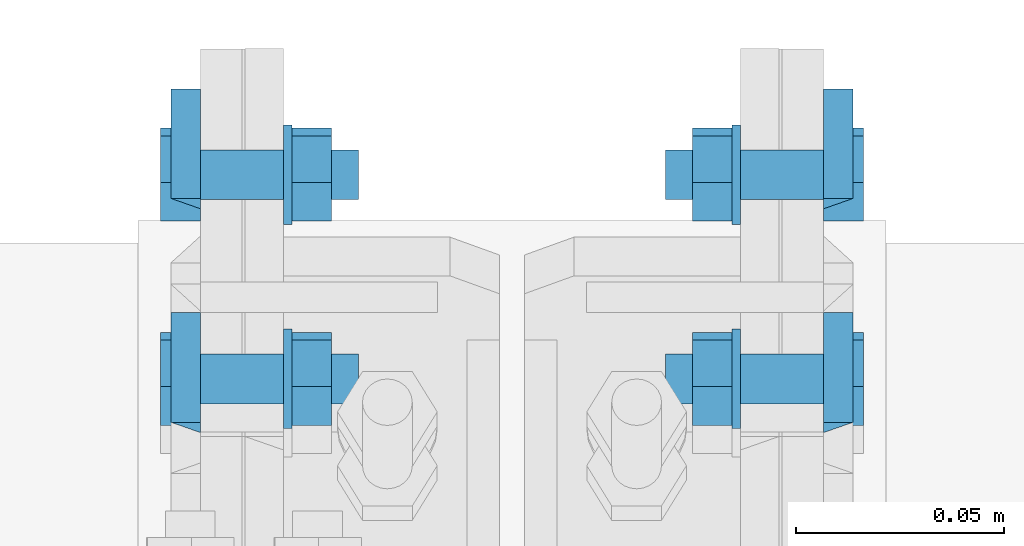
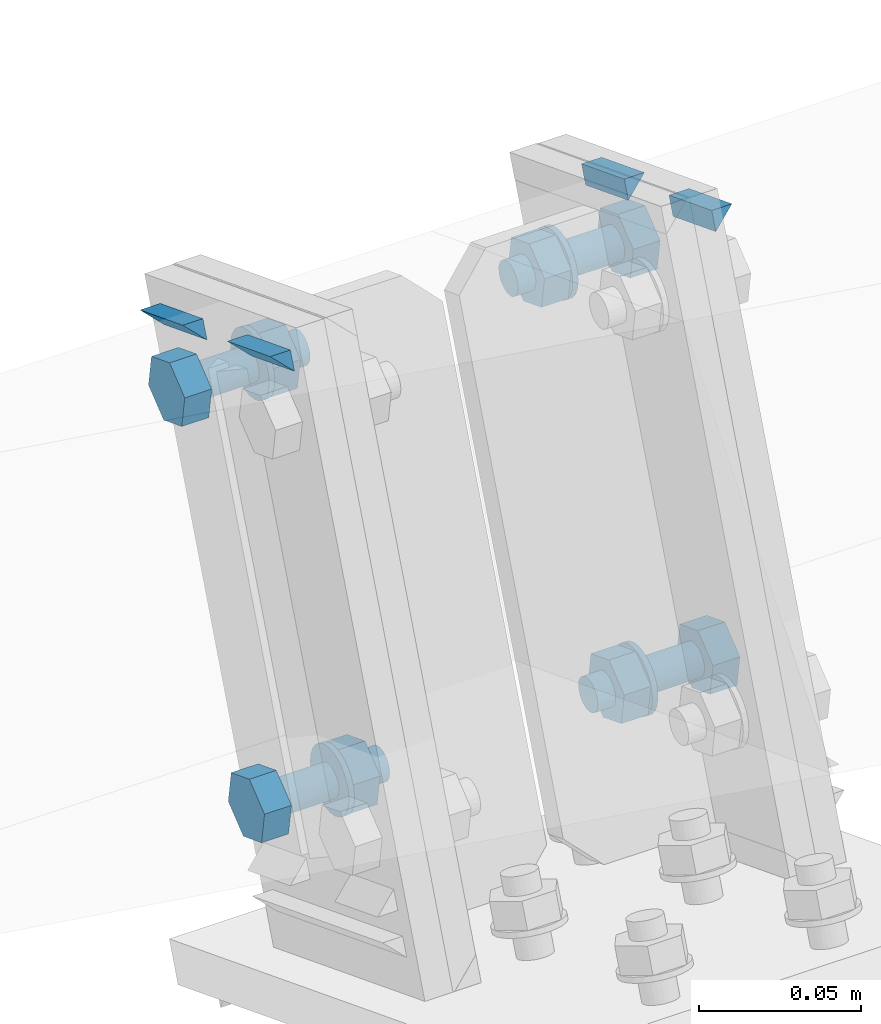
# One storey, part 47 of 72: 16 mechanical fasteners, 8 fasteners.
"""IFC4 building model written with IfcOpenShell, lengths in metres."""

import ifcopenshell
import ifcopenshell.guid

model = None  # the IFC model being written
_history = None  # IfcOwnerHistory: only IFC2X3 demands one
_inside = {}  # id of a spatial element -> (the spatial element, [elements in it])
_under = {}  # id of a project, library or spatial element -> (it, [spatial elements below it])
_declared = {}  # id of a project -> (the project, [libraries it declares])
_typed = {}  # id of a type object -> (the type object, [elements of that type])
_made_of = {}  # id of a material, layer set ... -> (it, [elements and type objects made of it])


def new_model(schema):
    """Start an empty IFC model of exactly this schema.

    Asked for "IFC4X3", IfcOpenShell would pick the latest addendum, in which some entities
    have other attributes; the version numbers below select the first issue.
    IFC2X3 requires an IfcOwnerHistory on every rooted entity: one is made here for all.
    """
    global model, _history
    if schema == "IFC4X3":
        model = ifcopenshell.file(schema_version=(4, 3, 0, 0))
    else:
        model = ifcopenshell.file(schema=schema)
    _inside.clear()
    _under.clear()
    _declared.clear()
    _typed.clear()
    _made_of.clear()
    _history = None
    if model.schema == "IFC2X3":
        org = make("IfcOrganization", Name="unknown")
        user = make(
            "IfcPersonAndOrganization",
            ThePerson=make("IfcPerson", FamilyName="unknown"),
            TheOrganization=org,
        )
        app = make(
            "IfcApplication",
            ApplicationDeveloper=org,
            Version="unknown",
            ApplicationFullName="unknown",
            ApplicationIdentifier="unknown",
        )
        _history = make(
            "IfcOwnerHistory",
            OwningUser=user,
            OwningApplication=app,
            ChangeAction="ADDED",
            CreationDate=0,
        )
    return model


def make(cls, **values):
    """One entity of the class cls with the attributes given. An attribute that is None is left unset."""
    return model.create_entity(
        cls, **{name: value for name, value in values.items() if value is not None}
    )


def rooted(cls, **values):
    """An entity with a GlobalId (a new one), such as an element, a storey or a relation."""
    return make(cls, GlobalId=ifcopenshell.guid.new(), OwnerHistory=_history, **values)


def si_unit(unit_type, name, prefix=None):
    """IfcSIUnit, for example si_unit("LENGTHUNIT", "METRE", prefix="MILLI")."""
    return make("IfcSIUnit", UnitType=unit_type, Prefix=prefix, Name=name)


def assignment(units):
    """IfcUnitAssignment: the units of a project."""
    return None if units is None else make("IfcUnitAssignment", Units=units)


def point(xyz):
    """IfcCartesianPoint."""
    return None if xyz is None else make("IfcCartesianPoint", Coordinates=xyz)


def direction(xyz):
    """IfcDirection."""
    return None if xyz is None else make("IfcDirection", DirectionRatios=xyz)


def frame(location, z_axis=None, x_axis=None):
    """IfcAxis2Placement3D, a coordinate frame: its origin and axes. An axis left out is left unset."""
    return make(
        "IfcAxis2Placement3D",
        Location=point(location),
        Axis=direction(z_axis),
        RefDirection=direction(x_axis),
    )


def origin_with_axes():
    """The frame at (0, 0, 0) with the z axis (0, 0, 1) and the x axis (1, 0, 0) written out."""
    return frame((0.0, 0.0, 0.0), z_axis=(0.0, 0.0, 1.0), x_axis=(1.0, 0.0, 0.0))


def place(relative_to, where):
    """IfcLocalPlacement: puts the frame where relative to a parent placement (None: the world)."""
    return make(
        "IfcLocalPlacement", PlacementRelTo=relative_to, RelativePlacement=where
    )


def context(
    kind, dimensions, precision=None, world=None, true_north=None, identifier=None
):
    """IfcGeometricRepresentationContext, for example the 3D "Model" context."""
    return make(
        "IfcGeometricRepresentationContext",
        ContextIdentifier=identifier,
        ContextType=kind,
        CoordinateSpaceDimension=dimensions,
        Precision=precision,
        WorldCoordinateSystem=world,
        TrueNorth=true_north,
    )


def project(units=None, contexts=None):
    """IfcProject with its units and contexts."""
    return rooted(
        "IfcProject",
        Name="project",
        RepresentationContexts=contexts,
        UnitsInContext=assignment(units),
    )


def spatial(cls, under=None, at=None, **own):
    """A site, building, storey or space (cls), placed at a placement, below another one or the project."""
    s = rooted(cls, ObjectPlacement=at, **own)
    if under is not None:
        _under.setdefault(under.id(), (under, []))[1].append(s)
    return s


def polyline(points):
    """IfcPolyline through the points."""
    return make("IfcPolyline", Points=[point(p) for p in points])


def outline(outer, holes=None, kind="AREA"):
    """IfcArbitraryClosedProfileDef: a profile drawn as a closed curve; with holes, ...WithVoids."""
    if holes is None:
        return make("IfcArbitraryClosedProfileDef", ProfileType=kind, OuterCurve=outer)
    return make(
        "IfcArbitraryProfileDefWithVoids",
        ProfileType=kind,
        OuterCurve=outer,
        InnerCurves=holes,
    )


def extrude(swept, where, along, depth):
    """IfcExtrudedAreaSolid: the profile swept, set in the frame where, extruded along a direction by depth."""
    return make(
        "IfcExtrudedAreaSolid",
        SweptArea=swept,
        Position=where,
        ExtrudedDirection=direction(along),
        Depth=depth,
    )


def shape(context_of_items, identifier, shape_type, items):
    """IfcShapeRepresentation: the items that make up one representation, for example the "Body"."""
    return make(
        "IfcShapeRepresentation",
        ContextOfItems=context_of_items,
        RepresentationIdentifier=identifier,
        RepresentationType=shape_type,
        Items=items,
    )


def made_of(thing, what):
    """Note that an element or type object is made of a material, layer set ...; save() writes the relation."""
    if what is not None:
        _made_of.setdefault(what.id(), (what, []))[1].append(thing)
    return thing


def type_object(cls, material=None, **own):
    """A type object (cls), such as IfcWallType, which elements share."""
    return made_of(rooted(cls, **own), material)


def element(
    cls,
    number,
    at=None,
    inside=None,
    cuts=None,
    type_object=None,
    material=None,
    context=None,
    identifier="Body",
    shape_type=None,
    held_by="IfcProductDefinitionShape",
    body=None,
    shapes=None,
    **own,
):
    """One element of the class cls, such as IfcWall. Its Tag is "e" and its number.

    at: its placement. inside: the storey or other place that contains it. cuts: it is an
    opening in that element (IfcRelVoidsElement). A single representation is given by context,
    identifier, shape_type and body (its items); several are given by shapes. held_by: the class
    of the entity that holds the representations. save() writes the other relations.
    """
    e = rooted(cls, Tag="e%d" % number, ObjectPlacement=at, **own)
    if body is not None:
        shapes = [shape(context, identifier, shape_type, body)]
    if shapes is not None:
        e.Representation = make(held_by, Representations=shapes)
    if inside is not None:
        _inside.setdefault(inside.id(), (inside, []))[1].append(e)
    if cuts is not None:
        rooted(
            "IfcRelVoidsElement", RelatingBuildingElement=cuts, RelatedOpeningElement=e
        )
    if type_object is not None:
        _typed.setdefault(type_object.id(), (type_object, []))[1].append(e)
    return made_of(e, material)


def aggregate(whole, parts):
    """IfcRelAggregates: a whole, such as a stair, and the parts it consists of."""
    return rooted("IfcRelAggregates", RelatingObject=whole, RelatedObjects=parts)


def save(model, path):
    """Write the relations noted so far, then the file.

    IfcRelAggregates (storeys below a building ...), IfcRelContainedInSpatialStructure (elements
    in a storey), IfcRelDefinesByType, IfcRelAssociatesMaterial and IfcRelDeclares: one each for
    every whole, place, type object, material and project.
    """
    for whole, parts in _under.values():
        aggregate(whole, parts)
    for where, things in _inside.values():
        rooted(
            "IfcRelContainedInSpatialStructure",
            RelatedElements=things,
            RelatingStructure=where,
        )
    for kind, things in _typed.values():
        rooted("IfcRelDefinesByType", RelatedObjects=things, RelatingType=kind)
    for what, things in _made_of.values():
        rooted("IfcRelAssociatesMaterial", RelatedObjects=things, RelatingMaterial=what)
    for by, libraries in _declared.values():
        rooted("IfcRelDeclares", RelatingContext=by, RelatedDefinitions=libraries)
    model.write(path)


model = new_model("IFC4")

# Units and contexts
model_context = context("Model", 3, precision=1e-05, world=origin_with_axes())
ifc_project = project(units=[si_unit("LENGTHUNIT", "METRE"), si_unit("AREAUNIT", "SQUARE_METRE"), si_unit("VOLUMEUNIT", "CUBIC_METRE"), si_unit("MASSUNIT", "GRAM", prefix="KILO"), si_unit("TIMEUNIT", "SECOND"), si_unit("PLANEANGLEUNIT", "RADIAN"), si_unit("SOLIDANGLEUNIT", "STERADIAN"), si_unit("THERMODYNAMICTEMPERATUREUNIT", "DEGREE_CELSIUS")], contexts=[model_context])

# Site, building, storey
placement_1 = place(None, origin_with_axes())
site = spatial("IfcSite", under=ifc_project, at=placement_1, Name="Italia", CompositionType="ELEMENT")
building = spatial("IfcBuilding", under=site, at=placement_1, Name="Uffici", CompositionType="ELEMENT")
storey = spatial("IfcBuildingStorey", under=building, at=placement_1, Name="Storey 0", CompositionType="ELEMENT", Elevation=0.0)

# Fasteners
fastener_type_1 = type_object("IfcFastenerType", Name="Collegamento 0207_0206", PredefinedType="WELD")
placement_2 = place(placement_1, origin_with_axes())
fastener_1_placement = place(placement_2, origin_with_axes())
element("IfcFastener", 1, at=fastener_1_placement, inside=storey, type_object=fastener_type_1, Name="Collegamento 0207_0206", context=model_context, shape_type="SweptSolid", body=[
    extrude(outline(polyline([(0.0, 0.0), (-0.00717354, 0.00695801), (0.0, 0.00695801), (0.0, 0.0)])), frame((3.13005, 4.93457, 5.31007), z_axis=(0.0, -0.932385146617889, 0.361466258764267), x_axis=(1.0, 0.0, 0.0)), (0.0, 0.0, 1.0), 0.0283003),
])
fastener_type_2 = type_object("IfcFastenerType", Name="Collegamento 0207_0206", PredefinedType="WELD")
fastener_2_placement = place(placement_2, origin_with_axes())
element("IfcFastener", 2, at=fastener_2_placement, inside=storey, type_object=fastener_type_2, Name="Collegamento 0207_0206", context=model_context, shape_type="SweptSolid", body=[
    extrude(outline(polyline([(0.0, 0.0), (-0.00717354, 0.00695801), (0.0, 0.00695801), (0.0, 0.0)])), frame((3.13005, 4.88068, 5.33097), z_axis=(0.0, -0.932388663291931, 0.361457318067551), x_axis=(1.0, 0.0, 0.0)), (0.0, 0.0, 1.0), 0.0282996),
])
fastener_type_3 = type_object("IfcFastenerType", Name="Collegamento 0207_0206", PredefinedType="WELD")
fastener_3_placement = place(placement_2, origin_with_axes())
element("IfcFastener", 3, at=fastener_3_placement, inside=storey, type_object=fastener_type_3, Name="Collegamento 0207_0206", context=model_context, shape_type="SweptSolid", body=[
    extrude(outline(polyline([(0.0, 0.0), (-0.00717354, 0.00695801), (0.0, 0.00695801), (0.0, 0.0)])), frame((3.13005, 4.93457, 5.31007), z_axis=(0.0, -0.932385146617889, 0.361466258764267), x_axis=(1.0, 0.0, 0.0)), (0.0, 0.0, 1.0), 0.0283003),
])
fastener_type_4 = type_object("IfcFastenerType", Name="Collegamento 0207_0206", PredefinedType="WELD")
fastener_4_placement = place(placement_2, origin_with_axes())
element("IfcFastener", 4, at=fastener_4_placement, inside=storey, type_object=fastener_type_4, Name="Collegamento 0207_0206", context=model_context, shape_type="SweptSolid", body=[
    extrude(outline(polyline([(0.0, 0.0), (-0.00717354, 0.00695801), (0.0, 0.00695801), (0.0, 0.0)])), frame((3.13005, 4.88068, 5.33097), z_axis=(0.0, -0.932388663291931, 0.361457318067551), x_axis=(1.0, 0.0, 0.0)), (0.0, 0.0, 1.0), 0.0282996),
])

# Mechanical fasteners
mechanical_fastener_type_1 = type_object("IfcMechanicalFastenerType", Name="Collegamento 0207_0206", PredefinedType="BOLT")
mechanical_fastener_1_placement = place(placement_2, origin_with_axes())
element("IfcMechanicalFastener", 5, at=mechanical_fastener_1_placement, inside=storey, type_object=mechanical_fastener_type_1, Name="Collegamento 0207_0206", NominalDiameter=0.0119998, context=model_context, shape_type="SweptSolid", body=[
    extrude(outline(polyline([(0.0, 0.0), (-0.0111885, -0.00433731), (-0.0205393, 0.00318336), (-0.0187016, 0.0150418), (-0.00751305, 0.0193791), (0.00183773, 0.0118585), (0.0, 0.0)])), frame((3.13, 4.8579, 5.16499), z_axis=(-1.0, 0.0, 0.0), x_axis=(0.0, -1.0, 0.0)), (0.0, 0.0, 1.0), 0.00959992),
])
mechanical_fastener_type_2 = type_object("IfcMechanicalFastenerType", Name="Collegamento 0207_0206", PredefinedType="BOLT")
mechanical_fastener_2_placement = place(placement_2, origin_with_axes())
element("IfcMechanicalFastener", 6, at=mechanical_fastener_2_placement, inside=storey, type_object=mechanical_fastener_type_2, Name="Collegamento 0207_0206", NominalDiameter=0.012, context=model_context, shape_type="SweptSolid", body=[
    extrude(outline(polyline([(0.0, 0.0), (-0.000204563, -0.00155306), (-0.000803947, -0.00299978), (-0.00175762, -0.00424242), (-0.00300026, -0.00519609), (-0.00444698, -0.00579548), (-0.00600004, -0.00600004), (-0.0075531, -0.00579548), (-0.00899982, -0.00519609), (-0.0102425, -0.00424242), (-0.0111961, -0.00299978), (-0.0117955, -0.00155306), (-0.0120001, 0.0), (-0.0117955, 0.00155306), (-0.0111961, 0.00299978), (-0.0102425, 0.00424242), (-0.00899982, 0.00519609), (-0.0075531, 0.00579548), (-0.00600004, 0.00600004), (-0.00444698, 0.00579548), (-0.00300026, 0.00519609), (-0.00175762, 0.00424242), (-0.000803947, 0.00299978), (-0.000204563, 0.00155306), (0.0, 0.0)])), frame((3.168, 4.86125, 5.17251), z_axis=(-1.0, 0.0, 0.0), x_axis=(0.0, -1.0, 0.0)), (0.0, 0.0, 1.0), 0.0379999),
])
mechanical_fastener_type_3 = type_object("IfcMechanicalFastenerType", Name="Collegamento 0207_0206", PredefinedType="BOLT")
mechanical_fastener_3_placement = place(placement_2, origin_with_axes())
element("IfcMechanicalFastener", 7, at=mechanical_fastener_3_placement, inside=storey, type_object=mechanical_fastener_type_3, Name="Collegamento 0207_0206", NominalDiameter=0.0119998, context=model_context, shape_type="SweptSolid", body=[
    extrude(outline(polyline([(0.0, 0.0), (-0.0111885, -0.00433731), (-0.0205393, 0.00318336), (-0.0187016, 0.0150418), (-0.00751305, 0.0193791), (0.00183773, 0.0118585), (0.0, 0.0)])), frame((3.1616, 4.8579, 5.16499), z_axis=(-1.0, 0.0, 0.0), x_axis=(0.0, -1.0, 0.0)), (0.0, 0.0, 1.0), 0.00959992),
])
mechanical_fastener_type_4 = type_object("IfcMechanicalFastenerType", Name="Collegamento 0207_0206", PredefinedType="BOLT")
mechanical_fastener_4_placement = place(placement_2, origin_with_axes())
element("IfcMechanicalFastener", 8, at=mechanical_fastener_4_placement, inside=storey, type_object=mechanical_fastener_type_4, Name="Collegamento 0207_0206", NominalDiameter=0.024, context=model_context, shape_type="SweptSolid", body=[
    extrude(outline(polyline([(0.0, 0.0), (-0.000409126, -0.00310564), (-0.00160789, -0.00600004), (-0.00351477, -0.00848532), (-0.00600004, -0.0103922), (-0.00889444, -0.011591), (-0.0120001, -0.0120001), (-0.0151057, -0.011591), (-0.0180001, -0.0103922), (-0.0204854, -0.00848532), (-0.0223923, -0.00600004), (-0.023591, -0.00310564), (-0.0240002, 0.0), (-0.023591, 0.00310564), (-0.0223923, 0.00600004), (-0.0204854, 0.00848532), (-0.0180001, 0.0103922), (-0.0151057, 0.011591), (-0.0120001, 0.0120001), (-0.00889444, 0.011591), (-0.00600004, 0.0103922), (-0.00351477, 0.00848532), (-0.00160789, 0.00600004), (-0.000409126, 0.00310564), (0.0, 0.0)])), frame((3.152, 4.85525, 5.17251), z_axis=(-1.0, 0.0, 0.0), x_axis=(0.0, -1.0, 0.0)), (0.0, 0.0, 1.0), 0.00200009),
])
mechanical_fastener_type_5 = type_object("IfcMechanicalFastenerType", Name="Collegamento 0207_0206", PredefinedType="BOLT")
mechanical_fastener_5_placement = place(placement_2, origin_with_axes())
element("IfcMechanicalFastener", 9, at=mechanical_fastener_5_placement, inside=storey, type_object=mechanical_fastener_type_5, Name="Collegamento 0207_0206", NominalDiameter=0.0119998, context=model_context, shape_type="SweptSolid", body=[
    extrude(outline(polyline([(0.0, 0.0), (-0.0111885, -0.00433779), (-0.0205393, 0.00318336), (-0.0187011, 0.0150418), (-0.00751257, 0.0193791), (0.00183821, 0.0118585), (0.0, 0.0)])), frame((3.13, 4.90705, 5.2918), z_axis=(-1.0, 0.0, 0.0), x_axis=(0.0, -1.0, 0.0)), (0.0, 0.0, 1.0), 0.00959992),
])
mechanical_fastener_type_6 = type_object("IfcMechanicalFastenerType", Name="Collegamento 0207_0206", PredefinedType="BOLT")
mechanical_fastener_6_placement = place(placement_2, origin_with_axes())
element("IfcMechanicalFastener", 10, at=mechanical_fastener_6_placement, inside=storey, type_object=mechanical_fastener_type_6, Name="Collegamento 0207_0206", NominalDiameter=0.012, context=model_context, shape_type="SweptSolid", body=[
    extrude(outline(polyline([(0.0, 0.0), (-0.000204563, -0.00155306), (-0.000803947, -0.00299978), (-0.00175762, -0.00424242), (-0.00300026, -0.00519609), (-0.00444698, -0.00579548), (-0.00600004, -0.00600004), (-0.0075531, -0.00579548), (-0.00899982, -0.00519609), (-0.0102425, -0.00424242), (-0.0111961, -0.00299978), (-0.0117955, -0.00155306), (-0.0120001, 0.0), (-0.0117955, 0.00155306), (-0.0111961, 0.00299978), (-0.0102425, 0.00424242), (-0.00899982, 0.00519609), (-0.0075531, 0.00579548), (-0.00600004, 0.00600004), (-0.00444698, 0.00579548), (-0.00300026, 0.00519609), (-0.00175762, 0.00424242), (-0.000803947, 0.00299978), (-0.000204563, 0.00155306), (0.0, 0.0)])), frame((3.168, 4.9104, 5.29932), z_axis=(-1.0, 0.0, 0.0), x_axis=(0.0, -1.0, 0.0)), (0.0, 0.0, 1.0), 0.0379999),
])
mechanical_fastener_type_7 = type_object("IfcMechanicalFastenerType", Name="Collegamento 0207_0206", PredefinedType="BOLT")
mechanical_fastener_7_placement = place(placement_2, origin_with_axes())
element("IfcMechanicalFastener", 11, at=mechanical_fastener_7_placement, inside=storey, type_object=mechanical_fastener_type_7, Name="Collegamento 0207_0206", NominalDiameter=0.0119998, context=model_context, shape_type="SweptSolid", body=[
    extrude(outline(polyline([(0.0, 0.0), (-0.0111885, -0.00433779), (-0.0205393, 0.00318336), (-0.0187011, 0.0150418), (-0.00751257, 0.0193791), (0.00183821, 0.0118585), (0.0, 0.0)])), frame((3.1616, 4.90705, 5.2918), z_axis=(-1.0, 0.0, 0.0), x_axis=(0.0, -1.0, 0.0)), (0.0, 0.0, 1.0), 0.00959992),
])
mechanical_fastener_type_8 = type_object("IfcMechanicalFastenerType", Name="Collegamento 0207_0206", PredefinedType="BOLT")
mechanical_fastener_8_placement = place(placement_2, origin_with_axes())
element("IfcMechanicalFastener", 12, at=mechanical_fastener_8_placement, inside=storey, type_object=mechanical_fastener_type_8, Name="Collegamento 0207_0206", NominalDiameter=0.024, context=model_context, shape_type="SweptSolid", body=[
    extrude(outline(polyline([(0.0, 0.0), (-0.000409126, -0.00310564), (-0.00160789, -0.00600004), (-0.00351477, -0.00848532), (-0.00600004, -0.0103922), (-0.00889444, -0.011591), (-0.0120001, -0.0120001), (-0.0151057, -0.011591), (-0.0180001, -0.0103922), (-0.0204854, -0.00848532), (-0.0223923, -0.00600004), (-0.023591, -0.00310564), (-0.0240002, 0.0), (-0.023591, 0.00310564), (-0.0223923, 0.00600004), (-0.0204854, 0.00848532), (-0.0180001, 0.0103922), (-0.0151057, 0.011591), (-0.0120001, 0.0120001), (-0.00889444, 0.011591), (-0.00600004, 0.0103922), (-0.00351477, 0.00848532), (-0.00160789, 0.00600004), (-0.000409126, 0.00310564), (0.0, 0.0)])), frame((3.152, 4.9044, 5.29932), z_axis=(-1.0, 0.0, 0.0), x_axis=(0.0, -1.0, 0.0)), (0.0, 0.0, 1.0), 0.00200009),
])

# Fasteners
fastener_type_5 = type_object("IfcFastenerType", Name="Collegamento 0207_0208", PredefinedType="WELD")
fastener_5_placement = place(placement_2, origin_with_axes())
element("IfcFastener", 13, at=fastener_5_placement, inside=storey, type_object=fastener_type_5, Name="Collegamento 0207_0208", context=model_context, shape_type="SweptSolid", body=[
    extrude(outline(polyline([(0.0, 0.0), (-0.00717354, 0.00695801), (0.0, 0.00695801), (0.0, 0.0)])), frame((3.27995, 4.90818, 5.3203), z_axis=(0.0, 0.932385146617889, -0.361466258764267), x_axis=(-1.0, 0.0, 0.0)), (0.0, 0.0, 1.0), 0.0283003),
])
fastener_type_6 = type_object("IfcFastenerType", Name="Collegamento 0207_0208", PredefinedType="WELD")
fastener_6_placement = place(placement_2, origin_with_axes())
element("IfcFastener", 14, at=fastener_6_placement, inside=storey, type_object=fastener_type_6, Name="Collegamento 0207_0208", context=model_context, shape_type="SweptSolid", body=[
    extrude(outline(polyline([(0.0, 0.0), (-0.00717354, 0.00695848), (0.0, 0.00695848), (0.0, 0.0)])), frame((3.27995, 4.85429, 5.34119), z_axis=(0.0, 0.932388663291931, -0.361457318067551), x_axis=(-1.0, 0.0, 0.0)), (0.0, 0.0, 1.0), 0.0282996),
])
fastener_type_7 = type_object("IfcFastenerType", Name="Collegamento 0207_0208", PredefinedType="WELD")
fastener_7_placement = place(placement_2, origin_with_axes())
element("IfcFastener", 15, at=fastener_7_placement, inside=storey, type_object=fastener_type_7, Name="Collegamento 0207_0208", context=model_context, shape_type="SweptSolid", body=[
    extrude(outline(polyline([(0.0, 0.0), (-0.00717354, 0.00695801), (0.0, 0.00695801), (0.0, 0.0)])), frame((3.27995, 4.90818, 5.3203), z_axis=(0.0, 0.932385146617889, -0.361466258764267), x_axis=(-1.0, 0.0, 0.0)), (0.0, 0.0, 1.0), 0.0283003),
])
fastener_type_8 = type_object("IfcFastenerType", Name="Collegamento 0207_0208", PredefinedType="WELD")
fastener_8_placement = place(placement_2, origin_with_axes())
element("IfcFastener", 16, at=fastener_8_placement, inside=storey, type_object=fastener_type_8, Name="Collegamento 0207_0208", context=model_context, shape_type="SweptSolid", body=[
    extrude(outline(polyline([(0.0, 0.0), (-0.00717354, 0.00695848), (0.0, 0.00695848), (0.0, 0.0)])), frame((3.27995, 4.85429, 5.34119), z_axis=(0.0, 0.932388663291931, -0.361457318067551), x_axis=(-1.0, 0.0, 0.0)), (0.0, 0.0, 1.0), 0.0282996),
])

# Mechanical fasteners
mechanical_fastener_type_9 = type_object("IfcMechanicalFastenerType", Name="Collegamento 0207_0208", PredefinedType="BOLT")
mechanical_fastener_9_placement = place(placement_2, origin_with_axes())
element("IfcMechanicalFastener", 17, at=mechanical_fastener_9_placement, inside=storey, type_object=mechanical_fastener_type_9, Name="Collegamento 0207_0208", NominalDiameter=0.0119998, context=model_context, shape_type="SweptSolid", body=[
    extrude(outline(polyline([(0.0, 0.0), (-0.0111885, 0.00433731), (-0.0130262, 0.0161958), (-0.00367546, 0.0237164), (0.00751305, 0.0193791), (0.00935078, 0.00752068), (0.0, 0.0)])), frame((3.28, 4.86908, 5.16066), z_axis=(1.0, 0.0, 0.0), x_axis=(0.0, 1.0, 0.0)), (0.0, 0.0, 1.0), 0.00959992),
])
mechanical_fastener_type_10 = type_object("IfcMechanicalFastenerType", Name="Collegamento 0207_0208", PredefinedType="BOLT")
mechanical_fastener_10_placement = place(placement_2, origin_with_axes())
element("IfcMechanicalFastener", 18, at=mechanical_fastener_10_placement, inside=storey, type_object=mechanical_fastener_type_10, Name="Collegamento 0207_0208", NominalDiameter=0.012, context=model_context, shape_type="SweptSolid", body=[
    extrude(outline(polyline([(0.0, 0.0), (-0.000204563, -0.00155306), (-0.000803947, -0.00299978), (-0.00175762, -0.00424242), (-0.00300026, -0.00519609), (-0.00444698, -0.00579548), (-0.00600004, -0.00600004), (-0.0075531, -0.00579548), (-0.00899982, -0.00519609), (-0.0102425, -0.00424242), (-0.0111961, -0.00299978), (-0.0117955, -0.00155306), (-0.0120001, 0.0), (-0.0117955, 0.00155306), (-0.0111961, 0.00299978), (-0.0102425, 0.00424242), (-0.00899982, 0.00519609), (-0.0075531, 0.00579548), (-0.00600004, 0.00600004), (-0.00444698, 0.00579548), (-0.00300026, 0.00519609), (-0.00175762, 0.00424242), (-0.000803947, 0.00299978), (-0.000204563, 0.00155306), (0.0, 0.0)])), frame((3.242, 4.87325, 5.17251), z_axis=(1.0, 0.0, 0.0), x_axis=(0.0, 1.0, 0.0)), (0.0, 0.0, 1.0), 0.0379999),
])
mechanical_fastener_type_11 = type_object("IfcMechanicalFastenerType", Name="Collegamento 0207_0208", PredefinedType="BOLT")
mechanical_fastener_11_placement = place(placement_2, origin_with_axes())
element("IfcMechanicalFastener", 19, at=mechanical_fastener_11_placement, inside=storey, type_object=mechanical_fastener_type_11, Name="Collegamento 0207_0208", NominalDiameter=0.0119998, context=model_context, shape_type="SweptSolid", body=[
    extrude(outline(polyline([(0.0, 0.0), (-0.0111885, 0.00433731), (-0.0130262, 0.0161958), (-0.00367546, 0.0237164), (0.00751305, 0.0193791), (0.00935078, 0.00752068), (0.0, 0.0)])), frame((3.2484, 4.86908, 5.16066), z_axis=(1.0, 0.0, 0.0), x_axis=(0.0, 1.0, 0.0)), (0.0, 0.0, 1.0), 0.00959992),
])
mechanical_fastener_type_12 = type_object("IfcMechanicalFastenerType", Name="Collegamento 0207_0208", PredefinedType="BOLT")
mechanical_fastener_12_placement = place(placement_2, origin_with_axes())
element("IfcMechanicalFastener", 20, at=mechanical_fastener_12_placement, inside=storey, type_object=mechanical_fastener_type_12, Name="Collegamento 0207_0208", NominalDiameter=0.024, context=model_context, shape_type="SweptSolid", body=[
    extrude(outline(polyline([(0.0, 0.0), (-0.000409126, -0.00310564), (-0.00160789, -0.00600004), (-0.00351477, -0.00848532), (-0.00600004, -0.0103922), (-0.00889444, -0.011591), (-0.0120001, -0.0120001), (-0.0151057, -0.011591), (-0.0180001, -0.0103922), (-0.0204854, -0.00848532), (-0.0223923, -0.00600004), (-0.023591, -0.00310564), (-0.0240002, 0.0), (-0.023591, 0.00310564), (-0.0223923, 0.00600004), (-0.0204854, 0.00848532), (-0.0180001, 0.0103922), (-0.0151057, 0.011591), (-0.0120001, 0.0120001), (-0.00889444, 0.011591), (-0.00600004, 0.0103922), (-0.00351477, 0.00848532), (-0.00160789, 0.00600004), (-0.000409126, 0.00310564), (0.0, 0.0)])), frame((3.258, 4.87925, 5.17251), z_axis=(1.0, 0.0, 0.0), x_axis=(0.0, 1.0, 0.0)), (0.0, 0.0, 1.0), 0.00200009),
])
mechanical_fastener_type_13 = type_object("IfcMechanicalFastenerType", Name="Collegamento 0207_0208", PredefinedType="BOLT")
mechanical_fastener_13_placement = place(placement_2, origin_with_axes())
element("IfcMechanicalFastener", 21, at=mechanical_fastener_13_placement, inside=storey, type_object=mechanical_fastener_type_13, Name="Collegamento 0207_0208", NominalDiameter=0.0119998, context=model_context, shape_type="SweptSolid", body=[
    extrude(outline(polyline([(0.0, 0.0), (-0.0111885, 0.00433779), (-0.0130267, 0.0161963), (-0.00367594, 0.0237169), (0.00751257, 0.0193796), (0.00935078, 0.00752115), (0.0, 0.0)])), frame((3.28, 4.91824, 5.28746), z_axis=(1.0, 0.0, 0.0), x_axis=(0.0, 1.0, 0.0)), (0.0, 0.0, 1.0), 0.00959992),
])
mechanical_fastener_type_14 = type_object("IfcMechanicalFastenerType", Name="Collegamento 0207_0208", PredefinedType="BOLT")
mechanical_fastener_14_placement = place(placement_2, origin_with_axes())
element("IfcMechanicalFastener", 22, at=mechanical_fastener_14_placement, inside=storey, type_object=mechanical_fastener_type_14, Name="Collegamento 0207_0208", NominalDiameter=0.012, context=model_context, shape_type="SweptSolid", body=[
    extrude(outline(polyline([(0.0, 0.0), (-0.000204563, -0.00155306), (-0.000803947, -0.00299978), (-0.00175762, -0.00424242), (-0.00300026, -0.00519609), (-0.00444698, -0.00579548), (-0.00600004, -0.00600004), (-0.0075531, -0.00579548), (-0.00899982, -0.00519609), (-0.0102425, -0.00424242), (-0.0111961, -0.00299978), (-0.0117955, -0.00155306), (-0.0120001, 0.0), (-0.0117955, 0.00155306), (-0.0111961, 0.00299978), (-0.0102425, 0.00424242), (-0.00899982, 0.00519609), (-0.0075531, 0.00579548), (-0.00600004, 0.00600004), (-0.00444698, 0.00579548), (-0.00300026, 0.00519609), (-0.00175762, 0.00424242), (-0.000803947, 0.00299978), (-0.000204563, 0.00155306), (0.0, 0.0)])), frame((3.242, 4.9224, 5.29932), z_axis=(1.0, 0.0, 0.0), x_axis=(0.0, 1.0, 0.0)), (0.0, 0.0, 1.0), 0.0379999),
])
mechanical_fastener_type_15 = type_object("IfcMechanicalFastenerType", Name="Collegamento 0207_0208", PredefinedType="BOLT")
mechanical_fastener_15_placement = place(placement_2, origin_with_axes())
element("IfcMechanicalFastener", 23, at=mechanical_fastener_15_placement, inside=storey, type_object=mechanical_fastener_type_15, Name="Collegamento 0207_0208", NominalDiameter=0.0119998, context=model_context, shape_type="SweptSolid", body=[
    extrude(outline(polyline([(0.0, 0.0), (-0.0111885, 0.00433779), (-0.0130267, 0.0161963), (-0.00367594, 0.0237169), (0.00751257, 0.0193796), (0.00935078, 0.00752115), (0.0, 0.0)])), frame((3.2484, 4.91824, 5.28746), z_axis=(1.0, 0.0, 0.0), x_axis=(0.0, 1.0, 0.0)), (0.0, 0.0, 1.0), 0.00959992),
])
mechanical_fastener_type_16 = type_object("IfcMechanicalFastenerType", Name="Collegamento 0207_0208", PredefinedType="BOLT")
mechanical_fastener_16_placement = place(placement_2, origin_with_axes())
element("IfcMechanicalFastener", 24, at=mechanical_fastener_16_placement, inside=storey, type_object=mechanical_fastener_type_16, Name="Collegamento 0207_0208", NominalDiameter=0.024, context=model_context, shape_type="SweptSolid", body=[
    extrude(outline(polyline([(0.0, 0.0), (-0.000409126, -0.00310564), (-0.00160789, -0.00600004), (-0.00351477, -0.00848532), (-0.00600004, -0.0103922), (-0.00889444, -0.011591), (-0.0120001, -0.0120001), (-0.0151057, -0.011591), (-0.0180001, -0.0103922), (-0.0204854, -0.00848532), (-0.0223923, -0.00600004), (-0.023591, -0.00310564), (-0.0240002, 0.0), (-0.023591, 0.00310564), (-0.0223923, 0.00600004), (-0.0204854, 0.00848532), (-0.0180001, 0.0103922), (-0.0151057, 0.011591), (-0.0120001, 0.0120001), (-0.00889444, 0.011591), (-0.00600004, 0.0103922), (-0.00351477, 0.00848532), (-0.00160789, 0.00600004), (-0.000409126, 0.00310564), (0.0, 0.0)])), frame((3.258, 4.9284, 5.29932), z_axis=(1.0, 0.0, 0.0), x_axis=(0.0, 1.0, 0.0)), (0.0, 0.0, 1.0), 0.00200009),
])

save(model, "model.ifc")
